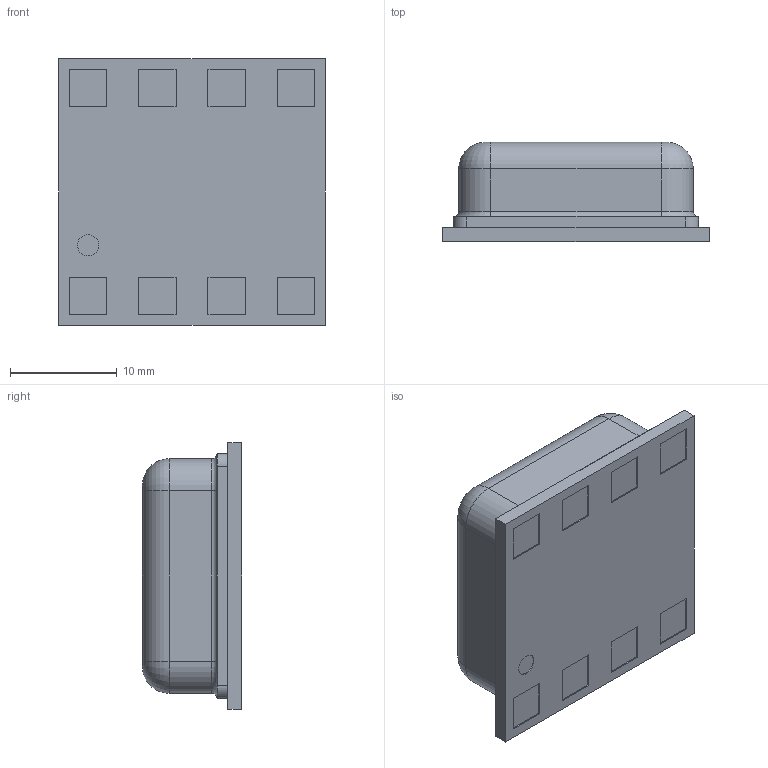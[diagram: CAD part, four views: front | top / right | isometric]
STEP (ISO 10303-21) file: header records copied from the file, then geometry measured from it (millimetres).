
FILE_DESCRIPTION (( 'STEP AP214' ), '1' );
FILE_NAME ('CC2B4366-85F6-4772-BC1B-F014F87A13E1.STEP', '2025-10-31T19:33:21', ( '' ), ( '' ), 'SwSTEP 2.0', 'SolidWorks 2022', '' );
FILE_SCHEMA (( 'AUTOMOTIVE_DESIGN' ));
Length unit declared in the file: millimetre
Products named in the file (1): CC2B4366-85F6-4772-BC1B-F014F87A13E1
Bounding box: 25 x 9.3 x 25 mm (x, y, z)
Volume: 4540.9 mm3; surface area: 1980.6 mm2
Topology: 1 solids, 1 shells, 89 faces, 204 edges, 128 vertices
Faces by surface type: plane 61, cylinder 20, torus 8
Entity records: 2706 total; most frequent: DIRECTION 432, CARTESIAN_POINT 422, ORIENTED_EDGE 408, EDGE_CURVE 204, VECTOR 156, LINE 156, AXIS2_PLACEMENT_3D 138, VERTEX_POINT 128
